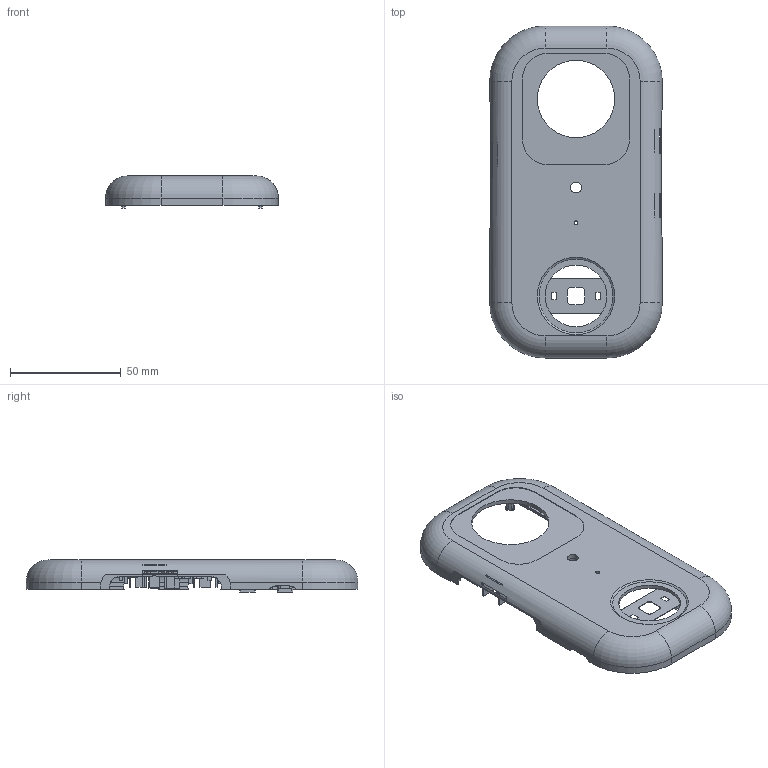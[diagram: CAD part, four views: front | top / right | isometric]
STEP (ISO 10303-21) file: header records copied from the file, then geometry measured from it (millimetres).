
FILE_DESCRIPTION(/* description */ (''),/* implementation_level */ '2;1');
FILE_NAME(/* name */ 'C28_R3_1_01_Front_Shell_Aligned_Status_Light.step',/* time_stamp */ '2026-09-10T17:48:17-07:00',/* author */ (''),/* organization */ (''),/* preprocessor_version */ 'ST-DEVELOPER v20.1',/* originating_system */ 'Autodesk Translation Framework v15.8.0.0',/* authorisation */ '');
FILE_SCHEMA (('AUTOMOTIVE_DESIGN { 1 0 10303 214 3 1 1 }'));
Length unit declared in the file: millimetre
Products named in the file (1): 2026-09-10-17-48-17-513
Bounding box: 78 x 150 x 14.51 mm (x, y, z)
Volume: 31326.7 mm3; surface area: 34573.4 mm2
Topology: 1 solids, 2 shells, 902 faces, 2488 edges, 1640 vertices
Faces by surface type: plane 577, cylinder 304, torus 12, cone 9
Full cylindrical faces by diameter (mm): 1.5 x6, 1.7 x10, 1.8 x1, 2.1 x4, 2.2 x1, 3 x4, 4.2 x4, 4.9 x1, 5.5 x1, 5.6 x1, 5.7 x1, 27.9 x1, 35 x1
Entity records: 29673 total; most frequent: CARTESIAN_POINT 5980, ORIENTED_EDGE 4976, DIRECTION 4971, EDGE_CURVE 2488, AXIS2_PLACEMENT_3D 1664, LINE 1643, VECTOR 1643, VERTEX_POINT 1640
